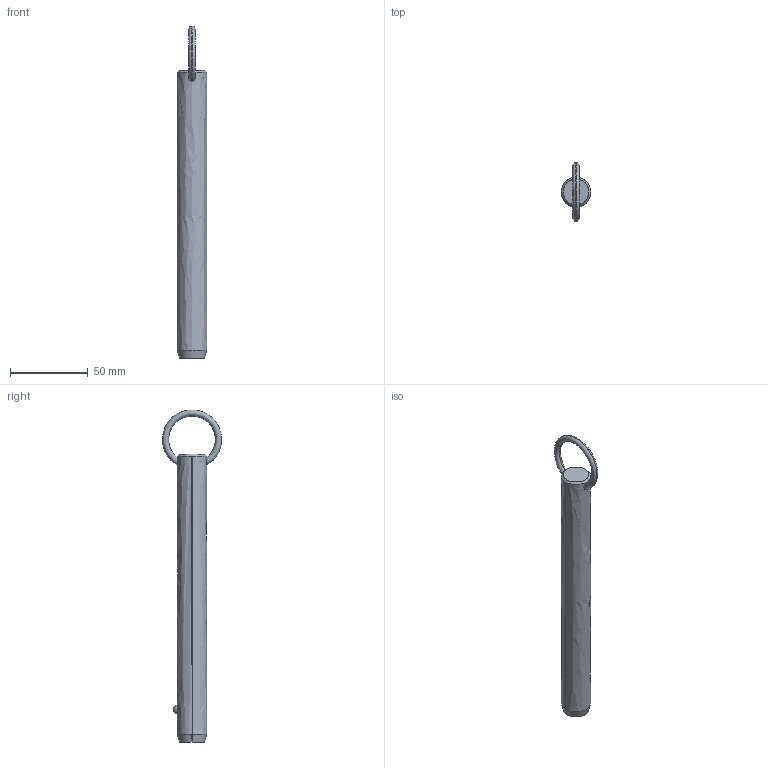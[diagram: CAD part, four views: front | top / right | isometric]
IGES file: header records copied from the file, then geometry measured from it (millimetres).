
Start section: SolidWorks IGES file using analytic representation for surfaces
Global section: file name: C:\Users\liam_\OneDrive\Documents\WORK\Work for WixRoyd\Job Files\J-00019 - Matt Davis CAD Checking\04. CAD Drawings\automotion20190605\P1250.2_v2\P1250.2_v2_20190729_IGES\P1250.075-600.igs; native system: SolidWorks 2017; preprocessor: SolidWorks 2017; author: liam_; date: 190729.235850; units: millimetre
Bounding box: 19 x 38.06 x 214.19 mm (x, y, z)
Surface area: 12611.3 mm2 (no closed solid volume)
Topology: 0 solids, 0 shells, 12 faces, 294 edges, 292 vertices
Faces by surface type: revolution 8, bspline 4
